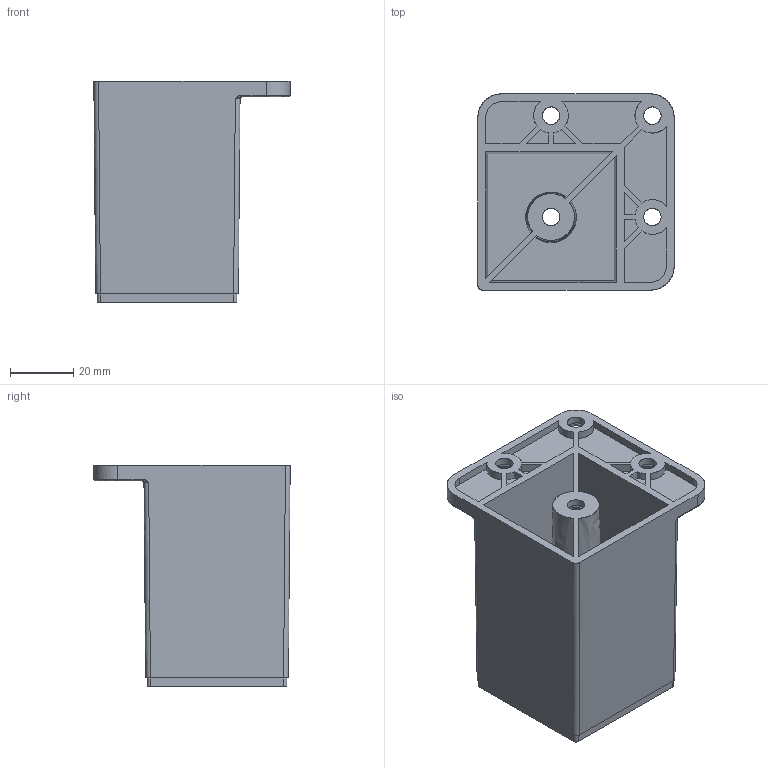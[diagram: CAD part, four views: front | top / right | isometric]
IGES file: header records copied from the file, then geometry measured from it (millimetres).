
Start section: C
Global section: file name: 8110-70.igs; native system: By Siemens PLM Incorporated; preprocessor: XPlus GENERIC/IGES 16.0.42; author: Author; organization: Title; date: 20231128.101704; units: millimetre
Bounding box: 62 x 62 x 70 mm (x, y, z)
Surface area: 42746 mm2 (no closed solid volume)
Topology: 0 solids, 0 shells, 125 faces, 660 edges, 658 vertices
Faces by surface type: bspline 125
